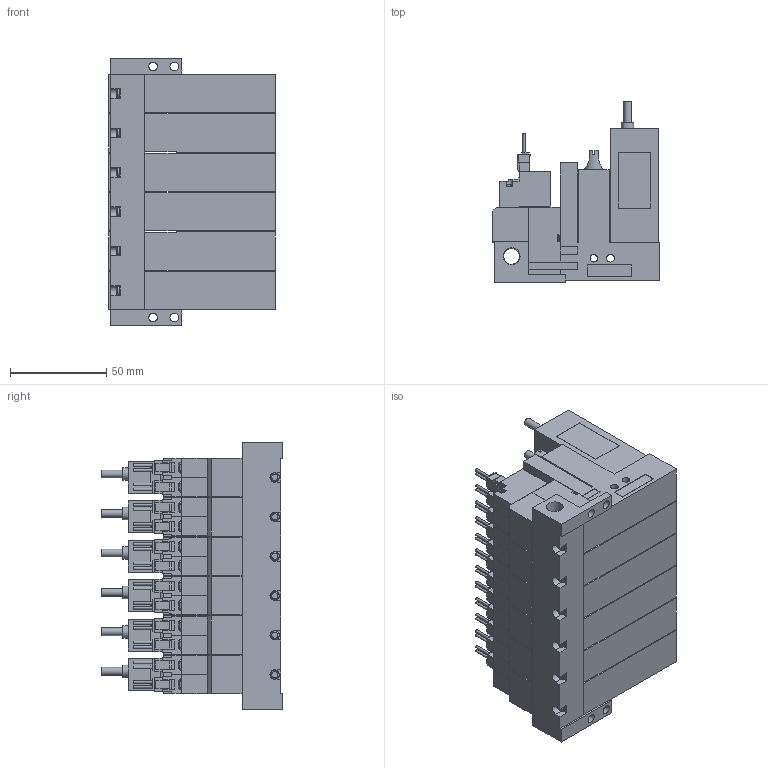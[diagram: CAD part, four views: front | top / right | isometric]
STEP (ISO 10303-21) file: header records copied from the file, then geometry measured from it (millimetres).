
FILE_DESCRIPTION(('STEP AP203'),'1');
FILE_NAME('VG_VGPL5BLR606.stp','2025-02-19T02:21:47',(' '),(' '),'Spatial InterOp 3D',' ',' ');
FILE_SCHEMA(('CONFIG_CONTROL_DESIGN'));
Length unit declared in the file: millimetre
Products named in the file (5): BMC22M※※※※VG_VGPL5BLR606; Solenoid valve B; Pressure sensor VGL; Unit L; Base MR60R
Assembly tree (19 placements, depth 2):
  BMC22M※※※※VG_VGPL5BLR606
    Solenoid valve B  x6
    Pressure sensor VGL  x6
    Unit L  x6
    Base MR60R
Bounding box: 86.6 x 94 x 138.5 mm (x, y, z)
Volume: 595714.9 mm3; surface area: 160188 mm2
Topology: 19 solids, 19 shells, 2151 faces, 5759 edges, 3814 vertices
Faces by surface type: plane 1814, cylinder 275, cone 44, torus 18
Full cylindrical faces by diameter (mm): 1.4 x24, 2.5 x18, 3 x24, 3.5 x24, 3.6 x6, 4 x36, 4.134 x6, 4.5 x4, 5.2 x6, 6 x6, 6.5 x6, 6.6 x6, 8.279 x1
Entity records: 14062 total; most frequent: CARTESIAN_POINT 2688, DIRECTION 2250, ORIENTED_EDGE 2164, EDGE_CURVE 1082, LINE 856, VECTOR 856, VERTEX_POINT 765, AXIS2_PLACEMENT_3D 697
